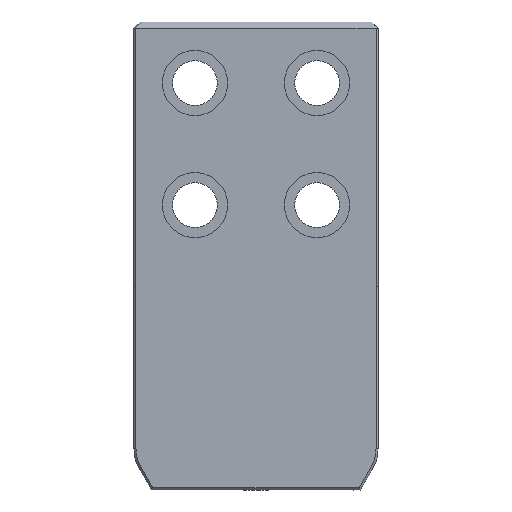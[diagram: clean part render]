
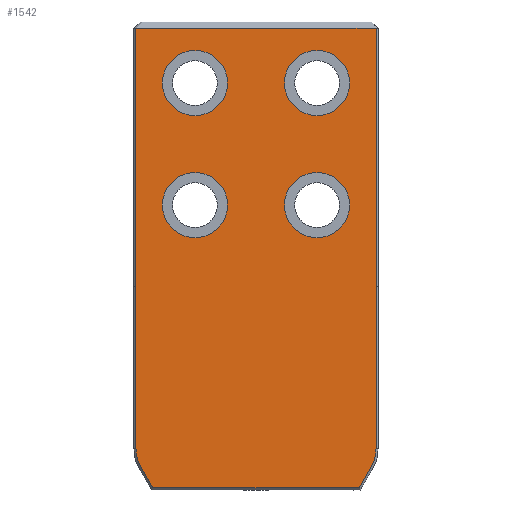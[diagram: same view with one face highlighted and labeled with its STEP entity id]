
A CAD part, front view. The second image highlights one B-rep face of the part: STEP entity #1542.
In plain terms, the highlighted planar face has unit normal (0, -1, 0).
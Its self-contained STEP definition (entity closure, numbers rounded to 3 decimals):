
#109=VERTEX_POINT(' ',#110);
#110=CARTESIAN_POINT('',(30.,-45.,-106.));
#111=VERTEX_POINT(' ',#112);
#112=CARTESIAN_POINT('',(30.,-45.,-74.));
#117=VERTEX_POINT(' ',#118);
#118=CARTESIAN_POINT('',(-30.,-45.,-46.));
#119=VERTEX_POINT(' ',#120);
#120=CARTESIAN_POINT('',(-30.,-45.,-14.));
#137=VERTEX_POINT(' ',#138);
#138=CARTESIAN_POINT('',(-30.,-45.,-106.));
#139=VERTEX_POINT(' ',#140);
#140=CARTESIAN_POINT('',(-30.,-45.,-74.));
#145=VERTEX_POINT(' ',#146);
#146=CARTESIAN_POINT('',(30.,-45.,-46.));
#147=VERTEX_POINT(' ',#148);
#148=CARTESIAN_POINT('',(30.,-45.,-14.));
#153=VERTEX_POINT(' ',#154);
#154=CARTESIAN_POINT('',(50.762,-45.,-229.));
#159=VERTEX_POINT(' ',#160);
#160=CARTESIAN_POINT('',(56.454,-45.,-219.141));
#163=VERTEX_POINT(' ',#164);
#164=CARTESIAN_POINT('',(59.,-45.,-209.641));
#167=VERTEX_POINT(' ',#168);
#168=CARTESIAN_POINT('',(59.,-45.,-130.));
#171=VERTEX_POINT(' ',#172);
#172=CARTESIAN_POINT('',(59.,-45.,-3.));
#177=VERTEX_POINT(' ',#178);
#178=CARTESIAN_POINT('',(-58.775,-45.,-3.));
#181=VERTEX_POINT(' ',#182);
#182=CARTESIAN_POINT('',(-59.,-45.,-3.112));
#187=VERTEX_POINT(' ',#188);
#188=CARTESIAN_POINT('',(-50.762,-45.,-229.));
#191=VERTEX_POINT(' ',#192);
#192=CARTESIAN_POINT('',(-59.,-45.,-130.));
#193=VERTEX_POINT(' ',#194);
#194=CARTESIAN_POINT('',(-59.,-45.,-209.641));
#195=VERTEX_POINT(' ',#196);
#196=CARTESIAN_POINT('',(-56.454,-45.,-219.141));
#363=CIRCLE('',#364,16.);
#364=AXIS2_PLACEMENT_3D('',#365,#366,#367);
#365=CARTESIAN_POINT('',(30.,-45.,-90.));
#366=DIRECTION('',(0.,1.,0.));
#367=DIRECTION('',(-1.,0.,0.));
#368=EDGE_CURVE(' ',#109,#111,#363,.F.);
#379=CIRCLE('',#380,16.);
#380=AXIS2_PLACEMENT_3D('',#381,#382,#383);
#381=CARTESIAN_POINT('',(30.,-45.,-90.));
#382=DIRECTION('',(0.,1.,0.));
#383=DIRECTION('',(1.,0.,0.));
#384=EDGE_CURVE(' ',#111,#109,#379,.F.);
#397=CIRCLE('',#398,16.);
#398=AXIS2_PLACEMENT_3D('',#399,#400,#401);
#399=CARTESIAN_POINT('',(-30.,-45.,-30.));
#400=DIRECTION('',(0.,1.,0.));
#401=DIRECTION('',(-1.,0.,0.));
#402=EDGE_CURVE(' ',#117,#119,#397,.F.);
#413=CIRCLE('',#414,16.);
#414=AXIS2_PLACEMENT_3D('',#415,#416,#417);
#415=CARTESIAN_POINT('',(-30.,-45.,-30.));
#416=DIRECTION('',(0.,1.,0.));
#417=DIRECTION('',(1.,0.,0.));
#418=EDGE_CURVE(' ',#119,#117,#413,.F.);
#487=CIRCLE('',#488,16.);
#488=AXIS2_PLACEMENT_3D('',#489,#490,#491);
#489=CARTESIAN_POINT('',(-30.,-45.,-90.));
#490=DIRECTION('',(0.,1.,0.));
#491=DIRECTION('',(-1.,0.,0.));
#492=EDGE_CURVE(' ',#137,#139,#487,.F.);
#509=CIRCLE('',#510,16.);
#510=AXIS2_PLACEMENT_3D('',#511,#512,#513);
#511=CARTESIAN_POINT('',(-30.,-45.,-90.));
#512=DIRECTION('',(0.,1.,0.));
#513=DIRECTION('',(1.,0.,0.));
#514=EDGE_CURVE(' ',#139,#137,#509,.F.);
#521=CIRCLE('',#522,16.);
#522=AXIS2_PLACEMENT_3D('',#523,#524,#525);
#523=CARTESIAN_POINT('',(30.,-45.,-30.));
#524=DIRECTION('',(0.,1.,0.));
#525=DIRECTION('',(-1.,0.,0.));
#526=EDGE_CURVE(' ',#145,#147,#521,.F.);
#543=CIRCLE('',#544,16.);
#544=AXIS2_PLACEMENT_3D('',#545,#546,#547);
#545=CARTESIAN_POINT('',(30.,-45.,-30.));
#546=DIRECTION('',(0.,1.,0.));
#547=DIRECTION('',(1.,0.,0.));
#548=EDGE_CURVE(' ',#147,#145,#543,.F.);
#570=LINE('',#571,#572);
#571=CARTESIAN_POINT('',(56.454,-45.,-219.141));
#572=VECTOR('',#573,1.);
#573=DIRECTION('',(-0.5,0.,-0.866));
#574=EDGE_CURVE(' ',#159,#153,#570,.T.);
#586=CIRCLE('',#587,19.);
#587=AXIS2_PLACEMENT_3D('',#588,#589,#590);
#588=CARTESIAN_POINT('',(40.,-45.,-209.641));
#589=DIRECTION('',(0.,1.,0.));
#590=DIRECTION('',(-0.966,0.,0.259));
#591=EDGE_CURVE(' ',#163,#159,#586,.T.);
#597=LINE('',#598,#599);
#598=CARTESIAN_POINT('',(59.,-45.,-130.));
#599=VECTOR('',#600,1.);
#600=DIRECTION('',(0.,0.,-1.));
#601=EDGE_CURVE(' ',#167,#163,#597,.T.);
#612=LINE('',#613,#614);
#613=CARTESIAN_POINT('',(59.,-45.,2.657));
#614=VECTOR('',#615,1.);
#615=DIRECTION('',(0.,0.,-1.));
#616=EDGE_CURVE(' ',#171,#167,#612,.T.);
#637=LINE('',#638,#639);
#638=CARTESIAN_POINT('',(-76.971,-45.,-3.));
#639=VECTOR('',#640,1.);
#640=DIRECTION('',(1.,0.,0.));
#641=EDGE_CURVE(' ',#177,#171,#637,.T.);
#652=LINE('',#653,#654);
#653=CARTESIAN_POINT('',(-10.555,-45.,21.11));
#654=VECTOR('',#655,1.);
#655=DIRECTION('',(-0.894,0.,-0.447));
#656=EDGE_CURVE(' ',#181,#177,#652,.F.);
#682=LINE('',#683,#684);
#683=CARTESIAN_POINT('',(-60.12,-45.,-229.));
#684=VECTOR('',#685,1.);
#685=DIRECTION('',(1.,0.,0.));
#686=EDGE_CURVE(' ',#187,#153,#682,.T.);
#687=LINE('',#688,#689);
#688=CARTESIAN_POINT('',(-59.,-45.,-130.));
#689=VECTOR('',#690,1.);
#690=DIRECTION('',(0.,0.,1.));
#691=EDGE_CURVE(' ',#191,#181,#687,.T.);
#692=LINE('',#693,#694);
#693=CARTESIAN_POINT('',(-59.,-45.,-209.641));
#694=VECTOR('',#695,1.);
#695=DIRECTION('',(0.,0.,1.));
#696=EDGE_CURVE(' ',#193,#191,#692,.T.);
#697=CIRCLE('',#698,19.);
#698=AXIS2_PLACEMENT_3D('',#699,#700,#701);
#699=CARTESIAN_POINT('',(-40.,-45.,-209.641));
#700=DIRECTION('',(0.,1.,0.));
#701=DIRECTION('',(0.966,0.,0.259));
#702=EDGE_CURVE(' ',#195,#193,#697,.T.);
#703=LINE('',#704,#705);
#704=CARTESIAN_POINT('',(-47.934,-45.,-233.899));
#705=VECTOR('',#706,1.);
#706=DIRECTION('',(-0.5,0.,0.866));
#707=EDGE_CURVE(' ',#187,#195,#703,.T.);
#1508=ORIENTED_EDGE('',*,*,#691,.F.);
#1509=ORIENTED_EDGE('',*,*,#696,.F.);
#1510=ORIENTED_EDGE('',*,*,#702,.F.);
#1511=ORIENTED_EDGE('',*,*,#707,.F.);
#1512=ORIENTED_EDGE('',*,*,#686,.T.);
#1513=ORIENTED_EDGE('',*,*,#574,.F.);
#1514=ORIENTED_EDGE('',*,*,#591,.F.);
#1515=ORIENTED_EDGE('',*,*,#601,.F.);
#1516=ORIENTED_EDGE('',*,*,#616,.F.);
#1517=ORIENTED_EDGE('',*,*,#641,.F.);
#1518=ORIENTED_EDGE('',*,*,#656,.F.);
#1519=EDGE_LOOP('',(#1508,#1509,#1510,#1511,#1512,#1513,#1514,#1515,#1516,#1517,#1518));
#1520=FACE_OUTER_BOUND('',#1519,.T.);
#1521=ORIENTED_EDGE('',*,*,#548,.F.);
#1522=ORIENTED_EDGE('',*,*,#526,.F.);
#1523=EDGE_LOOP('',(#1521,#1522));
#1524=FACE_BOUND('',#1523,.T.);
#1525=ORIENTED_EDGE('',*,*,#514,.F.);
#1526=ORIENTED_EDGE('',*,*,#492,.F.);
#1527=EDGE_LOOP('',(#1525,#1526));
#1528=FACE_BOUND('',#1527,.T.);
#1529=ORIENTED_EDGE('',*,*,#418,.F.);
#1530=ORIENTED_EDGE('',*,*,#402,.F.);
#1531=EDGE_LOOP('',(#1529,#1530));
#1532=FACE_BOUND('',#1531,.T.);
#1533=ORIENTED_EDGE('',*,*,#384,.F.);
#1534=ORIENTED_EDGE('',*,*,#368,.F.);
#1535=EDGE_LOOP('',(#1533,#1534));
#1536=FACE_BOUND('',#1535,.T.);
#1537=PLANE('',#1538);
#1538=AXIS2_PLACEMENT_3D('',#1539,#1540,#1541);
#1539=CARTESIAN_POINT('',(0.,-45.,0.));
#1540=DIRECTION('',(0.,-1.,0.));
#1541=DIRECTION('',(0.,0.,-1.));
#1542=ADVANCED_FACE('',(#1520,#1524,#1528,#1532,#1536),#1537,.T.);
